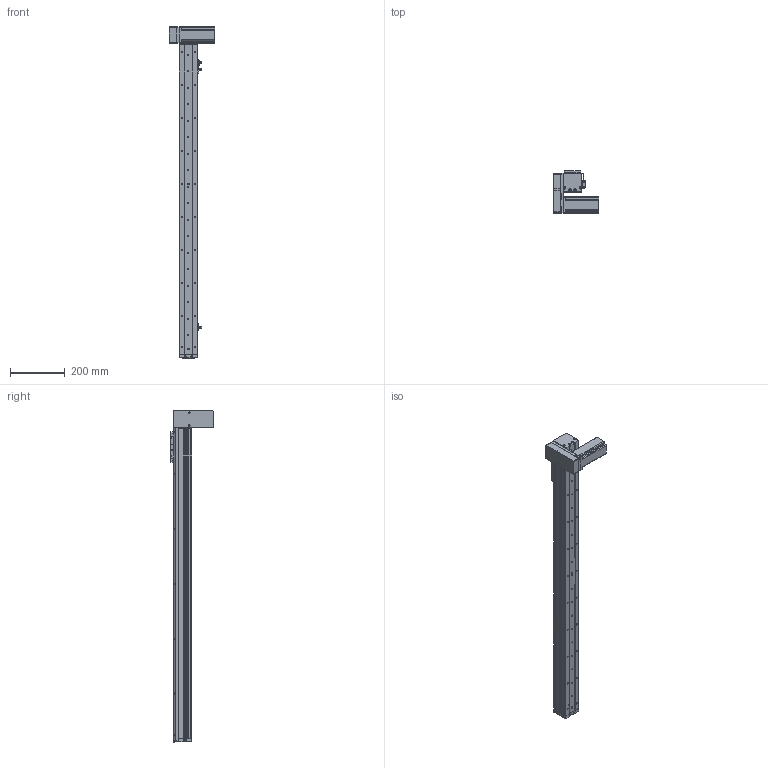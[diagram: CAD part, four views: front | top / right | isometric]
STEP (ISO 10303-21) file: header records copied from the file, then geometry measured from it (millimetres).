
FILE_DESCRIPTION (( 'STEP AP214' ), '1' );
FILE_NAME ('KSD68BS-S950-MRD-CR.STEP', '2019-11-08T03:16:50', ( '微软用户' ), ( '微软中国' ), 'SwSTEP 2.0', 'SolidWorks 2014', '' );
FILE_SCHEMA (( 'AUTOMOTIVE_DESIGN' ));
Length unit declared in the file: millimetre
Products named in the file (14): KSD68BS 950行程盖板全封闭; 68遵裔啣揤啣1; 68宽单导轨全封闭丝杆传动安装板1防护罩; KSD68BS 950行程侧板全封闭; 68宽单导轨全封闭同步带端板; 68单导轨全封闭同步带电机座右; 68单导轨全封闭同步带安装板; 悵誘欶奻狟殏; 68宽马达安装板连板上折同步带; 感应片68宽全封闭; U倰嫖萇EEㄜSX672; 台达ECMA－C20604AS伺服电机（400W); KSD68BS 950行程底板全封闭; KSD68BS-S950-MRD-CR
Assembly tree (17 placements, depth 2):
  KSD68BS-S950-MRD-CR
    KSD68BS 950行程底板全封闭
    台达ECMA－C20604AS伺服电机（400W)
    U倰嫖萇EEㄜSX672  x3
    感应片68宽全封闭
    68宽马达安装板连板上折同步带
    悵誘欶奻狟殏
    68单导轨全封闭同步带安装板
    68单导轨全封闭同步带电机座右
    68宽单导轨全封闭同步带端板
    KSD68BS 950行程侧板全封闭  x2
    68宽单导轨全封闭丝杆传动安装板1防护罩
    68遵裔啣揤啣1  x2
    KSD68BS 950行程盖板全封闭
Bounding box: 167.2 x 155.5 x 1208.1 mm (x, y, z)
Volume: 2469316.8 mm3; surface area: 940814.9 mm2
Topology: 18 solids, 18 shells, 1524 faces, 4337 edges, 2771 vertices
Faces by surface type: cylinder 725, plane 631, cone 168
Entity records: 48306 total; most frequent: CARTESIAN_POINT 8273, DIRECTION 7237, ORIENTED_EDGE 6918, EDGE_CURVE 3459, AXIS2_PLACEMENT_3D 2613, VERTEX_POINT 2269, LINE 2011, VECTOR 2011
